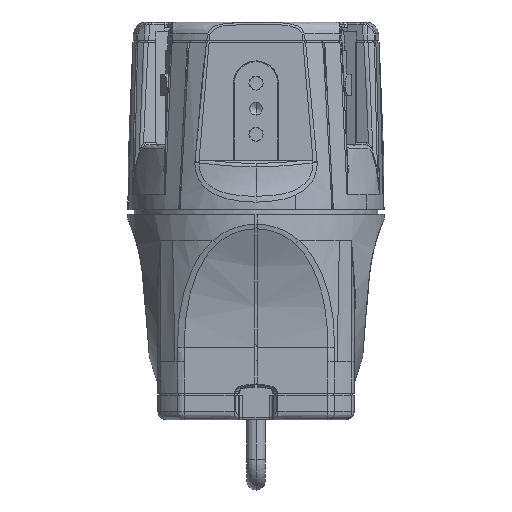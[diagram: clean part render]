
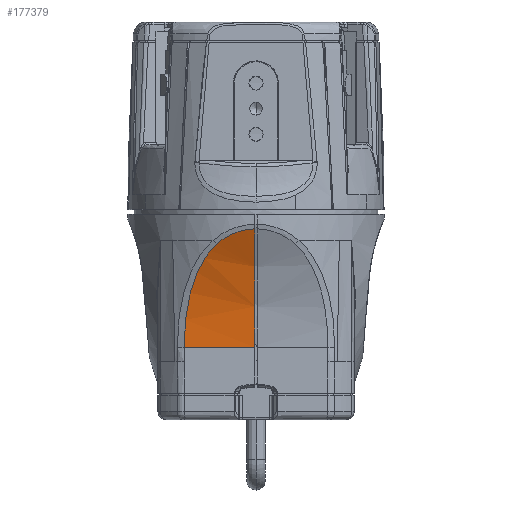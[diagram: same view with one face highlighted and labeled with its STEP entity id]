
A CAD part, front view. The second image highlights one B-rep face of the part: STEP entity #177379.
In plain terms, the highlighted cylindrical face has radius 60.903 mm (diameter 121.806 mm), a partial arc.
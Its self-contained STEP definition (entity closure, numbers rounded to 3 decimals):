
#5483 = VERTEX_POINT ( 'NONE', #240118 ) ;
#9646 = CARTESIAN_POINT ( 'NONE',  ( -1.737, -29.649, 10.921 ) ) ;
#10389 = ORIENTED_EDGE ( 'NONE', *, *, #179314, .T. ) ;
#12937 = CARTESIAN_POINT ( 'NONE',  ( -9.229, -28.001, 7.418 ) ) ;
#20457 = AXIS2_PLACEMENT_3D ( 'NONE', #102885, #235235, #85414 ) ;
#23288 = EDGE_CURVE ( 'NONE', #5483, #219502, #198889, .T. ) ;
#30395 = CARTESIAN_POINT ( 'NONE',  ( -0.717, -29.685, 10.991 ) ) ;
#31224 = CARTESIAN_POINT ( 'NONE',  ( -0.25, -29.689, 10.999 ) ) ;
#35388 = CARTESIAN_POINT ( 'NONE',  ( -16.815, -83.903, -16.75 ) ) ;
#36627 = CARTESIAN_POINT ( 'NONE',  ( -16.397, -23.459, -9.181 ) ) ;
#39100 = CARTESIAN_POINT ( 'NONE',  ( -16.822, -23., -15.804 ) ) ;
#57403 = CARTESIAN_POINT ( 'NONE',  ( -16.078, -23.761, -7.08 ) ) ;
#58236 = CARTESIAN_POINT ( 'NONE',  ( -14.489, -25.075, -0.939 ) ) ;
#60667 = CARTESIAN_POINT ( 'NONE',  ( -9.229, -28.001, 7.418 ) ) ;
#78974 = CARTESIAN_POINT ( 'NONE',  ( -10.577, -27.426, 6.062 ) ) ;
#85414 = DIRECTION ( 'NONE',  ( 0., 0., -1. ) ) ;
#88616 = CARTESIAN_POINT ( 'NONE',  ( -3.289, -29.506, 10.641 ) ) ;
#95690 = CARTESIAN_POINT ( 'NONE',  ( -15.672, -24.123, -5.049 ) ) ;
#102885 = CARTESIAN_POINT ( 'NONE',  ( -0.25, -83.903, -16.75 ) ) ;
#110655 = FACE_OUTER_BOUND ( 'NONE', #244278, .T. ) ;
#110697 = ORIENTED_EDGE ( 'NONE', *, *, #145134, .F. ) ;
#112336 = CARTESIAN_POINT ( 'NONE',  ( -16.797, -23.042, -14.01 ) ) ;
#115047 = VERTEX_POINT ( 'NONE', #175952 ) ;
#123588 = CARTESIAN_POINT ( 'NONE',  ( -8.803, -28.171, 7.813 ) ) ;
#128617 = CYLINDRICAL_SURFACE ( 'NONE', #200108, 60.903 ) ;
#130649 = CARTESIAN_POINT ( 'NONE',  ( -12.763, -26.243, 2.888 ) ) ;
#131049 = DIRECTION ( 'NONE',  ( 1., 0., 0. ) ) ;
#131291 = LINE ( 'NONE', #202342, #143255 ) ;
#136174 = EDGE_CURVE ( 'NONE', #219502, #115047, #131291, .T. ) ;
#139761 =( BOUNDED_CURVE ( )  B_SPLINE_CURVE ( 3, ( #169802, #39100, #112336, #247162, #36627, #57403, #95690, #172315, #58236, #191393, #130649, #149799, #78974, #230487, #60667 ),
 .UNSPECIFIED., .F., .F. ) 
 B_SPLINE_CURVE_WITH_KNOTS ( ( 4, 1, 1, 1, 1, 1, 1, 1, 1, 1, 1, 1, 4 ),
 ( 0., 0.106, 0.202, 0.287, 0.366, 0.443, 0.524, 0.609, 0.694, 0.775, 0.85, 0.924, 1. ),
 .UNSPECIFIED. ) 
 CURVE ( )  GEOMETRIC_REPRESENTATION_ITEM ( )  RATIONAL_B_SPLINE_CURVE ( ( 1.03, 1.03, 1.03, 1.03, 1.03, 1.03, 1.03, 1.03, 1.03, 1.03, 1.03, 1.03, 1.03, 1.03, 1.03 ) ) 
 REPRESENTATION_ITEM ( '' )  );
#143255 = VECTOR ( 'NONE', #239813, 1000. ) ;
#145134 = EDGE_CURVE ( 'NONE', #115047, #201625, #139761, .T. ) ;
#149799 = CARTESIAN_POINT ( 'NONE',  ( -11.734, -26.837, 4.546 ) ) ;
#151040 = CARTESIAN_POINT ( 'NONE',  ( -0.25, -23., -16.75 ) ) ;
#169381 = DIRECTION ( 'NONE',  ( 0., 0., -1. ) ) ;
#169802 = CARTESIAN_POINT ( 'NONE',  ( -16.811, -23., -16.75 ) ) ;
#172315 = CARTESIAN_POINT ( 'NONE',  ( -15.152, -24.559, -3.001 ) ) ;
#173401 = B_SPLINE_CURVE_WITH_KNOTS ( 'NONE', 3,
 ( #31224, #30395, #9646, #88616, #220142, #182759, #181931, #123588, #12937 ),
 .UNSPECIFIED., .F., .F.,
 ( 4, 1, 1, 1, 1, 1, 4 ),
 ( 0.024, 0.16, 0.32, 0.483, 0.651, 0.823, 1. ),
 .UNSPECIFIED. ) ;
#175952 = CARTESIAN_POINT ( 'NONE',  ( -16.811, -23., -16.75 ) ) ;
#177379 = ADVANCED_FACE ( 'NONE', ( #110655 ), #128617, .F. ) ;
#179068 = CARTESIAN_POINT ( 'NONE',  ( -9.229, -28.001, 7.418 ) ) ;
#179314 = EDGE_CURVE ( 'NONE', #5483, #201625, #173401, .T. ) ;
#181931 = CARTESIAN_POINT ( 'NONE',  ( -7.907, -28.497, 8.543 ) ) ;
#182759 = CARTESIAN_POINT ( 'NONE',  ( -6.437, -28.92, 9.448 ) ) ;
#188423 = ORIENTED_EDGE ( 'NONE', *, *, #136174, .F. ) ;
#191393 = CARTESIAN_POINT ( 'NONE',  ( -13.685, -25.648, 1.053 ) ) ;
#198889 = CIRCLE ( 'NONE', #20457, 60.903 ) ;
#200108 = AXIS2_PLACEMENT_3D ( 'NONE', #35388, #131049, #169381 ) ;
#201625 = VERTEX_POINT ( 'NONE', #179068 ) ;
#202342 = CARTESIAN_POINT ( 'NONE',  ( -0.25, -23., -16.75 ) ) ;
#214547 = ORIENTED_EDGE ( 'NONE', *, *, #23288, .F. ) ;
#219502 = VERTEX_POINT ( 'NONE', #151040 ) ;
#220142 = CARTESIAN_POINT ( 'NONE',  ( -4.889, -29.26, 10.147 ) ) ;
#230487 = CARTESIAN_POINT ( 'NONE',  ( -9.701, -27.812, 6.981 ) ) ;
#235235 = DIRECTION ( 'NONE',  ( -1., 0., 0. ) ) ;
#239813 = DIRECTION ( 'NONE',  ( -1., 0., 0. ) ) ;
#240118 = CARTESIAN_POINT ( 'NONE',  ( -0.25, -29.689, 10.999 ) ) ;
#244278 = EDGE_LOOP ( 'NONE', ( #188423, #214547, #10389, #110697 ) ) ;
#247162 = CARTESIAN_POINT ( 'NONE',  ( -16.641, -23.214, -11.464 ) ) ;
